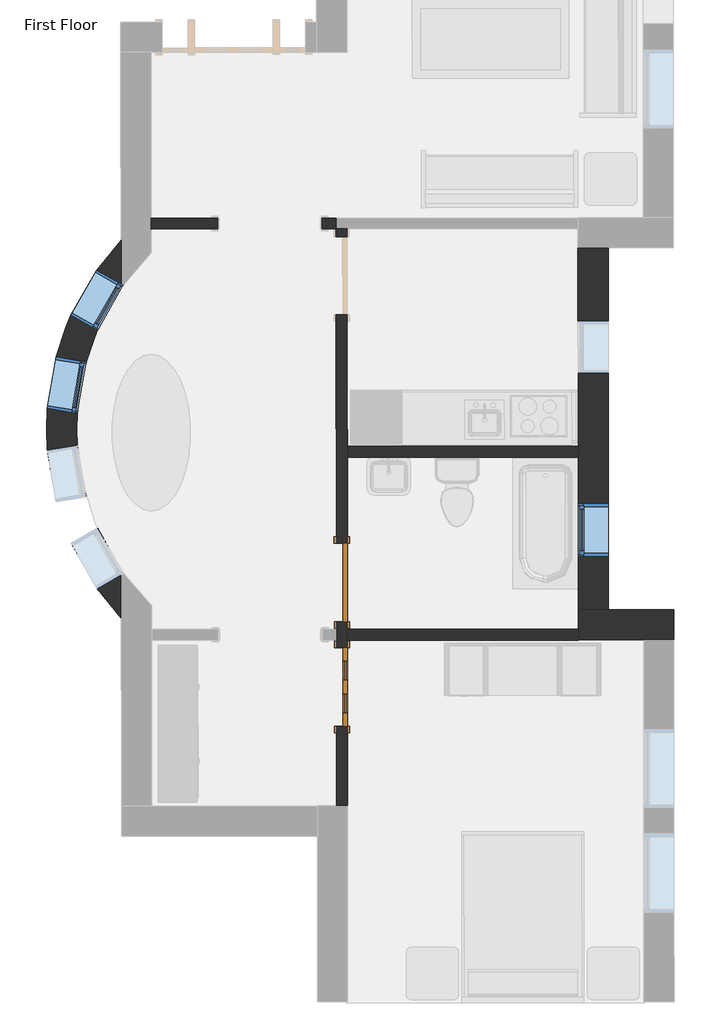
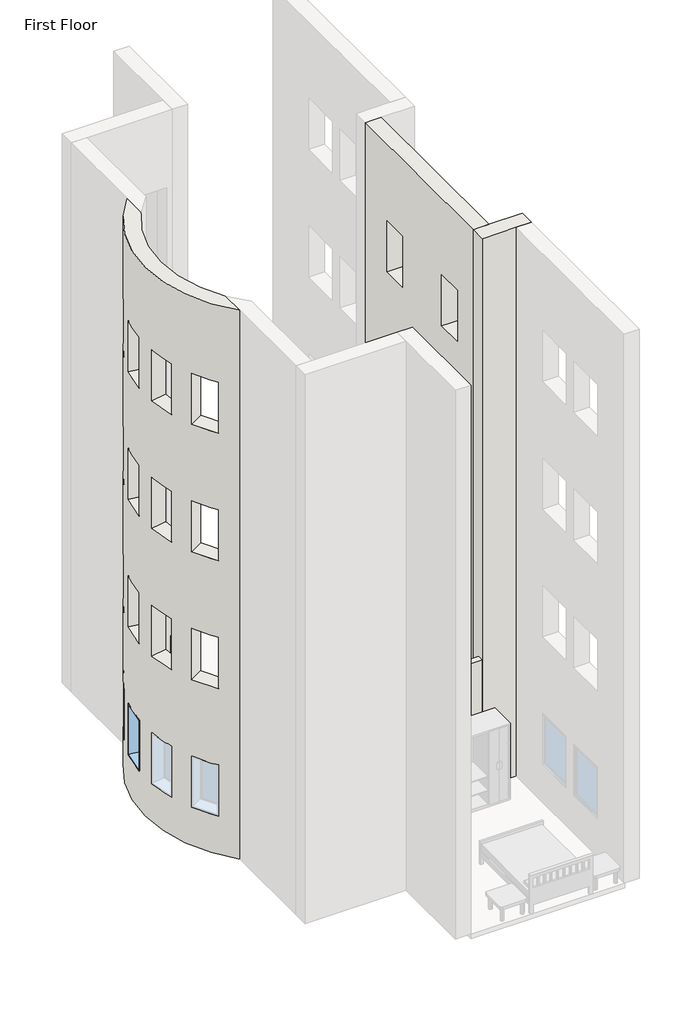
# One storey, part 11 of 21: 7 walls, 3 windows, 2 doors.
"""IFC4 building model written with IfcOpenShell, lengths in millimetres."""

from ifc_helpers import new_model, si_unit, frame, origin, origin_with_axes, place, context, project, spatial, polyline, circle_curve, outline, extrude, faceted_brep, transform, mapped, element, save
from ifc_brep_helpers import plane_surface, cylinder_surface, revolved_surface, advanced_brep
from components import door_829da954, door_a1797ceb, window_60baf983, window_ed80354a

model = new_model("IFC4")

# Units and contexts
model_context = context("Model", 3, world=origin())
ifc_project = project(units=[si_unit("LENGTHUNIT", "METRE", prefix="MILLI")], contexts=[model_context])

# Site, building, storey
site = spatial("IfcSite", under=ifc_project)
building = spatial("IfcBuilding", under=site)
storey = spatial("IfcBuildingStorey", under=building, Name="First Floor", Elevation=0.0)

# Doors
placement = place(None, origin())
door_shape = door_829da954(model_context)
element("IfcDoor", 1, ObjectType="Single-Decorative 2 : 36\" x 84\"", at=placement, inside=storey, context=model_context, shape_type="MappedRepresentation", body=[
    mapped(door_shape, transform((-3767.5734658, -7802.9176579, 0.0), x_axis=(-0.0007588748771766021, 0.999999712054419, 0.0), y_axis=(-0.999999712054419, -0.0007588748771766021, 0.0), z_axis=(0.0, 0.0, 1.0))),
])
door_2_shape = door_a1797ceb(model_context)
element("IfcDoor", 2, ObjectType="Single-Flush : 36\" x 84\"", at=placement, inside=storey, context=model_context, shape_type="MappedRepresentation", body=[
    mapped(door_2_shape, transform((-3768.498686, -6583.718009, 0.0), x_axis=(0.0007588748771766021, -0.999999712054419, 0.0), y_axis=(0.999999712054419, 0.0007588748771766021, 0.0), z_axis=(0.0, 0.0, 1.0))),
])

# Walls
element("IfcWall", 3, ObjectType="Exterior - Brick on Mtl. Stud", at=placement, inside=storey, context=model_context, shape_type="Brep", body=[
    faceted_brep([(105.2435508, -6901.4534148, 0.0), (-656.7562298, -6902.0316775, 0.0), (-1009.1811283, -6902.2991239, 0.0), (-1009.1811283, -6902.2991239, 13106.4), (-656.7562298, -6902.0316775, 13106.4), (105.2435508, -6901.4534148, 13106.4), (105.5109973, -7253.8783133, 0.0), (105.5109973, -7253.8783133, 13106.4), (-246.9139012, -7254.1457598, 13106.4), (-1008.9136818, -7254.7240225, 13106.4), (-1008.9136818, -7254.7240225, 0.0), (-246.9139012, -7254.1457598, 0.0)], [[[0, 1, 2, 3, 4, 5]], [[6, 7, 8, 9, 10, 11]], [[2, 1, 0, 6, 11, 10]], [[5, 4, 3, 9, 8, 7]], [[0, 5, 7, 6]], [[3, 2, 10, 9]]]),
])
element("IfcWall", 4, ObjectType="Exterior - Brick on Mtl. Stud", at=placement, inside=storey, context=model_context, shape_type="Brep", body=[
    faceted_brep([(-659.9583592, -2682.4578925, 0.0), (-656.7562298, -6902.0316775, 0.0), (-1009.1811283, -6902.2991239, 0.0), (-1010.5328173, -5121.1246368, 0.0), (-1010.6291944, -4994.1246734, 0.0), (-1012.3832578, -2682.725339, 0.0), (-656.7562298, -6902.0316775, 13106.4), (-659.9583592, -2682.4578925, 13106.4), (-1012.3832578, -2682.725339, 13106.4), (-1009.1811283, -6902.2991239, 13106.4), (-657.230887, -6276.5568576, 8229.6), (-657.6934972, -5666.9570331, 8229.6), (-657.6934972, -5666.9570331, 7010.4), (-657.230887, -6276.5568576, 7010.4), (-658.8500225, -4142.9574719, 8229.6), (-659.3126326, -3533.3576475, 8229.6), (-659.3126326, -3533.3576475, 7010.4), (-658.8500225, -4142.9574719, 7010.4), (-657.230887, -6276.5568576, 5181.6), (-657.6934972, -5666.9570331, 5181.6), (-657.6934972, -5666.9570331, 3962.4), (-657.230887, -6276.5568576, 3962.4), (-658.8500225, -4142.9574719, 5181.6), (-659.3126326, -3533.3576475, 5181.6), (-659.3126326, -3533.3576475, 3962.4), (-658.8500225, -4142.9574719, 3962.4), (-657.230887, -6276.5568576, 11277.6), (-657.6934972, -5666.9570331, 11277.6), (-657.6934972, -5666.9570331, 10058.4), (-657.230887, -6276.5568576, 10058.4), (-658.8500225, -4142.9574719, 11277.6), (-659.3126326, -3533.3576475, 11277.6), (-659.3126326, -3533.3576475, 10058.4), (-658.8500225, -4142.9574719, 10058.4), (-657.230887, -6276.5568576, 2133.6), (-657.6934972, -5666.9570331, 2133.6), (-657.6934972, -5666.9570331, 914.4), (-657.230887, -6276.5568576, 914.4), (-658.8500225, -4142.9574719, 2133.6), (-659.3126326, -3533.3576475, 2133.6), (-659.3126326, -3533.3576475, 914.4), (-658.8500225, -4142.9574719, 914.4), (-1009.6557856, -6276.824304, 8229.6), (-1009.6557856, -6276.824304, 7010.4), (-1010.1183957, -5667.2244796, 7010.4), (-1010.1183957, -5667.2244796, 8229.6), (-1011.274921, -4143.2249184, 8229.6), (-1011.274921, -4143.2249184, 7010.4), (-1011.7375311, -3533.6250939, 7010.4), (-1011.7375311, -3533.6250939, 8229.6), (-1009.6557856, -6276.824304, 5181.6), (-1009.6557856, -6276.824304, 3962.4), (-1010.1183957, -5667.2244796, 3962.4), (-1010.1183957, -5667.2244796, 5181.6), (-1011.274921, -4143.2249184, 5181.6), (-1011.274921, -4143.2249184, 3962.4), (-1011.7375311, -3533.6250939, 3962.4), (-1011.7375311, -3533.6250939, 5181.6), (-1009.6557856, -6276.824304, 11277.6), (-1009.6557856, -6276.824304, 10058.4), (-1010.1183957, -5667.2244796, 10058.4), (-1010.1183957, -5667.2244796, 11277.6), (-1011.274921, -4143.2249184, 11277.6), (-1011.274921, -4143.2249184, 10058.4), (-1011.7375311, -3533.6250939, 10058.4), (-1011.7375311, -3533.6250939, 11277.6), (-1009.6557856, -6276.824304, 2133.6), (-1009.6557856, -6276.824304, 914.4), (-1010.1183957, -5667.2244796, 914.4), (-1010.1183957, -5667.2244796, 2133.6), (-1011.274921, -4143.2249184, 2133.6), (-1011.274921, -4143.2249184, 914.4), (-1011.7375311, -3533.6250939, 914.4), (-1011.7375311, -3533.6250939, 2133.6)], [[[0, 1, 2, 3, 4, 5]], [[6, 7, 8, 9]], [[1, 0, 7, 6], [10, 11, 12, 13], [14, 15, 16, 17], [18, 19, 20, 21], [22, 23, 24, 25], [26, 27, 28, 29], [30, 31, 32, 33], [34, 35, 36, 37], [38, 39, 40, 41]], [[2, 9, 8, 5, 4, 3], [42, 43, 44, 45], [46, 47, 48, 49], [50, 51, 52, 53], [54, 55, 56, 57], [58, 59, 60, 61], [62, 63, 64, 65], [66, 67, 68, 69], [70, 71, 72, 73]], [[1, 6, 9, 2]], [[0, 5, 8, 7]], [[43, 42, 10, 13]], [[44, 43, 13, 12]], [[45, 44, 12, 11]], [[42, 45, 11, 10]], [[47, 46, 14, 17]], [[48, 47, 17, 16]], [[49, 48, 16, 15]], [[46, 49, 15, 14]], [[51, 50, 18, 21]], [[52, 51, 21, 20]], [[53, 52, 20, 19]], [[50, 53, 19, 18]], [[55, 54, 22, 25]], [[56, 55, 25, 24]], [[57, 56, 24, 23]], [[54, 57, 23, 22]], [[59, 58, 26, 29]], [[60, 59, 29, 28]], [[61, 60, 28, 27]], [[58, 61, 27, 26]], [[63, 62, 30, 33]], [[64, 63, 33, 32]], [[65, 64, 32, 31]], [[62, 65, 31, 30]], [[67, 66, 34, 37]], [[68, 67, 37, 36]], [[69, 68, 36, 35]], [[66, 69, 35, 34]], [[71, 70, 38, 41]], [[72, 71, 41, 40]], [[73, 72, 40, 39]], [[70, 73, 39, 38]]]),
])
element("IfcWall", 5, ObjectType="Exterior - Brick on Mtl. Stud", at=placement, inside=storey, context=model_context, shape_type="AdvancedBrep", body=[
    advanced_brep(
    [(-6346.4535097, -2592.1754708, 13106.4), (-6343.1078046, -7000.9446693, 13106.4), (-6343.5311767, -6443.0502457, 13106.4), (-6346.0301375, -3150.0698944, 13106.4), (-6343.1078046, -7000.9446693, 0.0), (-6346.4535097, -2592.1754708, 0.0), (-6346.0301375, -3150.0698944, 0.0), (-6343.5311767, -6443.0502457, 0.0), (-6928.8596513, -6125.0330477, 914.4), (-6928.8596513, -6125.0330477, 2133.6), (-6625.9800099, -6654.0662062, 2133.6), (-6625.9800099, -6654.0662062, 914.4), (-6930.8752676, -3468.975108, 2133.6), (-6930.8752676, -3468.975108, 914.4), (-6628.7989147, -2939.4828634, 914.4), (-6628.7989147, -2939.4828634, 2133.6), (-6928.8596513, -6125.0330477, 10058.4), (-6928.8596513, -6125.0330477, 11277.6), (-6625.9800099, -6654.0662062, 11277.6), (-6625.9800099, -6654.0662062, 10058.4), (-6930.8752676, -3468.975108, 11277.6), (-6930.8752676, -3468.975108, 10058.4), (-6628.7989147, -2939.4828634, 10058.4), (-6628.7989147, -2939.4828634, 11277.6), (-6928.8596513, -6125.0330477, 3962.4), (-6928.8596513, -6125.0330477, 5181.6), (-6625.9800099, -6654.0662062, 5181.6), (-6625.9800099, -6654.0662062, 3962.4), (-6930.8752676, -3468.975108, 5181.6), (-6930.8752676, -3468.975108, 3962.4), (-6628.7989147, -2939.4828634, 3962.4), (-6628.7989147, -2939.4828634, 5181.6), (-6928.8596513, -6125.0330477, 7010.4), (-6928.8596513, -6125.0330477, 8229.6), (-6625.9800099, -6654.0662062, 8229.6), (-6625.9800099, -6654.0662062, 7010.4), (-6930.8752676, -3468.975108, 8229.6), (-6930.8752676, -3468.975108, 7010.4), (-6628.7989147, -2939.4828634, 7010.4), (-6628.7989147, -2939.4828634, 8229.6), (-7206.9803495, -4552.7895718, 8229.6), (-7206.9803495, -4552.7895718, 7010.4), (-7103.9674711, -3951.9563945, 7010.4), (-7103.9674711, -3951.9563945, 8229.6), (-7206.609374, -5041.6388905, 8229.6), (-7102.6847001, -5642.315028, 8229.6), (-7102.6847001, -5642.315028, 7010.4), (-7206.609374, -5041.6388905, 7010.4), (-7206.9803495, -4552.7895718, 5181.6), (-7206.9803495, -4552.7895718, 3962.4), (-7103.9674711, -3951.9563945, 3962.4), (-7103.9674711, -3951.9563945, 5181.6), (-7206.609374, -5041.6388905, 5181.6), (-7102.6847001, -5642.315028, 5181.6), (-7102.6847001, -5642.315028, 3962.4), (-7206.609374, -5041.6388905, 3962.4), (-7206.9803495, -4552.7895718, 11277.6), (-7206.9803495, -4552.7895718, 10058.4), (-7103.9674711, -3951.9563945, 10058.4), (-7103.9674711, -3951.9563945, 11277.6), (-7206.609374, -5041.6388905, 11277.6), (-7102.6847001, -5642.315028, 11277.6), (-7102.6847001, -5642.315028, 10058.4), (-7206.609374, -5041.6388905, 10058.4), (-7206.9803495, -4552.7895718, 2133.6), (-7206.9803495, -4552.7895718, 914.4), (-7103.9674711, -3951.9563945, 914.4), (-7103.9674711, -3951.9563945, 2133.6), (-7206.609374, -5041.6388905, 2133.6), (-7102.6847001, -5642.315028, 2133.6), (-7102.6847001, -5642.315028, 914.4), (-7206.609374, -5041.6388905, 914.4), (-6343.5311767, -6443.0502457, 11277.6), (-6621.4662951, -5949.045611, 11277.6), (-6621.4662951, -5949.045611, 10058.4), (-6343.5311767, -6443.0502457, 10058.4), (-6343.5311767, -6443.0502457, 8229.6), (-6621.4662951, -5949.045611, 8229.6), (-6621.4662951, -5949.045611, 7010.4), (-6343.5311767, -6443.0502457, 7010.4), (-6343.5311767, -6443.0502457, 5181.6), (-6621.4662951, -5949.045611, 5181.6), (-6621.4662951, -5949.045611, 3962.4), (-6343.5311767, -6443.0502457, 3962.4), (-6343.5311767, -6443.0502457, 2133.6), (-6621.4662951, -5949.045611, 2133.6), (-6621.4662951, -5949.045611, 914.4), (-6343.5311767, -6443.0502457, 914.4), (-6346.0301375, -3150.0698944, 914.4), (-6623.2151606, -3644.4957959, 914.4), (-6623.2151606, -3644.4957959, 2133.6), (-6346.0301375, -3150.0698944, 2133.6), (-6346.0301375, -3150.0698944, 3962.4), (-6623.2151606, -3644.4957959, 3962.4), (-6623.2151606, -3644.4957959, 5181.6), (-6346.0301375, -3150.0698944, 5181.6), (-6346.0301375, -3150.0698944, 7010.4), (-6623.2151606, -3644.4957959, 7010.4), (-6623.2151606, -3644.4957959, 8229.6), (-6346.0301375, -3150.0698944, 8229.6), (-6346.0301375, -3150.0698944, 10058.4), (-6623.2151606, -3644.4957959, 10058.4), (-6623.2151606, -3644.4957959, 11277.6), (-6346.0301375, -3150.0698944, 11277.6), (-6857.8677771, -4612.6449398, 8229.6), (-6754.8548987, -4011.8117626, 8229.6), (-6754.8548987, -4011.8117626, 7010.4), (-6857.8677771, -4612.6449398, 7010.4), (-6857.5880491, -4981.253726, 8229.6), (-6857.5880491, -4981.253726, 7010.4), (-6753.6633752, -5581.9298635, 7010.4), (-6753.6633752, -5581.9298635, 8229.6), (-6857.8677771, -4612.6449398, 5181.6), (-6754.8548987, -4011.8117626, 5181.6), (-6754.8548987, -4011.8117626, 3962.4), (-6857.8677771, -4612.6449398, 3962.4), (-6857.5880491, -4981.253726, 5181.6), (-6857.5880491, -4981.253726, 3962.4), (-6753.6633752, -5581.9298635, 3962.4), (-6753.6633752, -5581.9298635, 5181.6), (-6857.8677771, -4612.6449398, 11277.6), (-6754.8548987, -4011.8117626, 11277.6), (-6754.8548987, -4011.8117626, 10058.4), (-6857.8677771, -4612.6449398, 10058.4), (-6857.5880491, -4981.253726, 11277.6), (-6857.5880491, -4981.253726, 10058.4), (-6753.6633752, -5581.9298635, 10058.4), (-6753.6633752, -5581.9298635, 11277.6), (-6857.8677771, -4612.6449398, 2133.6), (-6754.8548987, -4011.8117626, 2133.6), (-6754.8548987, -4011.8117626, 914.4), (-6857.8677771, -4612.6449398, 914.4), (-6857.5880491, -4981.253726, 2133.6), (-6857.5880491, -4981.253726, 914.4), (-6753.6633752, -5581.9298635, 914.4), (-6753.6633752, -5581.9298635, 2133.6), (-6346.0675411, -3100.7816606, 11277.6), (-6346.0675411, -3100.7816606, 10058.4), (-6346.0675411, -3100.7816606, 8229.6), (-6346.0675411, -3100.7816606, 7010.4), (-6346.0675411, -3100.7816606, 5181.6), (-6346.0675411, -3100.7816606, 3962.4), (-6346.0675411, -3100.7816606, 2133.6), (-6346.0675411, -3100.7816606, 914.4), (-6343.4937731, -6492.3384795, 914.4), (-6343.4937731, -6492.3384795, 2133.6), (-6343.4937731, -6492.3384795, 3962.4), (-6343.4937731, -6492.3384795, 5181.6), (-6343.4937731, -6492.3384795, 7010.4), (-6343.4937731, -6492.3384795, 8229.6), (-6343.4937731, -6492.3384795, 10058.4), (-6343.4937731, -6492.3384795, 11277.6)],
    [
        (0, 1, circle_curve(frame((-3991.8614496, -4794.7744983, 13106.4), z_axis=(0.0, 0.0, 1.0), x_axis=(-0.0007588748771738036, 0.999999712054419, 0.0)), 3224.2125)),
        (1, 2),
        (2, 3, circle_curve(frame((-3991.8614496, -4794.7744983, 13106.4), z_axis=(0.0, 0.0, -1.0), x_axis=(-0.0007588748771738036, 0.999999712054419, 0.0)), 2871.7875)),
        (3, 0),
        (4, 5, circle_curve(frame((-3991.8614496, -4794.7744983, 0.0), z_axis=(0.0, 0.0, -1.0), x_axis=(-0.0007588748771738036, 0.999999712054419, 0.0)), 3224.2125)),
        (5, 6),
        (6, 7, circle_curve(frame((-3991.8614496, -4794.7744983, 0.0), z_axis=(0.0, 0.0, 1.0), x_axis=(-0.0007588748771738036, 0.999999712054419, 0.0)), 2871.7875)),
        (7, 4),
        (0, 5),
        (4, 1),
        (8, 9),
        (9, 10, circle_curve(frame((-3991.8614496, -4794.7744983, 2133.6), z_axis=(0.0, 0.0, 1.0), x_axis=(-0.0007588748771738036, 0.999999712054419, 0.0)), 3224.2125)),
        (10, 11),
        (11, 8, circle_curve(frame((-3991.8614496, -4794.7744983, 914.4), z_axis=(0.0, 0.0, -1.0), x_axis=(-0.0007588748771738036, 0.999999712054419, 0.0)), 3224.2125)),
        (12, 13),
        (13, 14, circle_curve(frame((-3991.8614496, -4794.7744983, 914.4), z_axis=(0.0, 0.0, -1.0), x_axis=(-0.0007588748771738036, 0.999999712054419, 0.0)), 3224.2125)),
        (14, 15),
        (15, 12, circle_curve(frame((-3991.8614496, -4794.7744983, 2133.6), z_axis=(0.0, 0.0, 1.0), x_axis=(-0.0007588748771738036, 0.999999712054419, 0.0)), 3224.2125)),
        (16, 17),
        (17, 18, circle_curve(frame((-3991.8614496, -4794.7744983, 11277.6), z_axis=(0.0, 0.0, 1.0), x_axis=(-0.0007588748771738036, 0.999999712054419, 0.0)), 3224.2125)),
        (18, 19),
        (19, 16, circle_curve(frame((-3991.8614496, -4794.7744983, 10058.4), z_axis=(0.0, 0.0, -1.0), x_axis=(-0.0007588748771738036, 0.999999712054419, 0.0)), 3224.2125)),
        (20, 21),
        (21, 22, circle_curve(frame((-3991.8614496, -4794.7744983, 10058.4), z_axis=(0.0, 0.0, -1.0), x_axis=(-0.0007588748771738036, 0.999999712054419, 0.0)), 3224.2125)),
        (22, 23),
        (23, 20, circle_curve(frame((-3991.8614496, -4794.7744983, 11277.6), z_axis=(0.0, 0.0, 1.0), x_axis=(-0.0007588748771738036, 0.999999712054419, 0.0)), 3224.2125)),
        (24, 25),
        (25, 26, circle_curve(frame((-3991.8614496, -4794.7744983, 5181.6), z_axis=(0.0, 0.0, 1.0), x_axis=(-0.0007588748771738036, 0.999999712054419, 0.0)), 3224.2125)),
        (26, 27),
        (27, 24, circle_curve(frame((-3991.8614496, -4794.7744983, 3962.4), z_axis=(0.0, 0.0, -1.0), x_axis=(-0.0007588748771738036, 0.999999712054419, 0.0)), 3224.2125)),
        (28, 29),
        (29, 30, circle_curve(frame((-3991.8614496, -4794.7744983, 3962.4), z_axis=(0.0, 0.0, -1.0), x_axis=(-0.0007588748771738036, 0.999999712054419, 0.0)), 3224.2125)),
        (30, 31),
        (31, 28, circle_curve(frame((-3991.8614496, -4794.7744983, 5181.6), z_axis=(0.0, 0.0, 1.0), x_axis=(-0.0007588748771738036, 0.999999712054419, 0.0)), 3224.2125)),
        (32, 33),
        (33, 34, circle_curve(frame((-3991.8614496, -4794.7744983, 8229.6), z_axis=(0.0, 0.0, 1.0), x_axis=(-0.0007588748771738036, 0.999999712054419, 0.0)), 3224.2125)),
        (34, 35),
        (35, 32, circle_curve(frame((-3991.8614496, -4794.7744983, 7010.4), z_axis=(0.0, 0.0, -1.0), x_axis=(-0.0007588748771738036, 0.999999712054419, 0.0)), 3224.2125)),
        (36, 37),
        (37, 38, circle_curve(frame((-3991.8614496, -4794.7744983, 7010.4), z_axis=(0.0, 0.0, -1.0), x_axis=(-0.0007588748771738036, 0.999999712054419, 0.0)), 3224.2125)),
        (38, 39),
        (39, 36, circle_curve(frame((-3991.8614496, -4794.7744983, 8229.6), z_axis=(0.0, 0.0, 1.0), x_axis=(-0.0007588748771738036, 0.999999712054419, 0.0)), 3224.2125)),
        (40, 41),
        (41, 42, circle_curve(frame((-3991.8614496, -4794.7744983, 7010.4), z_axis=(0.0, 0.0, -1.0), x_axis=(-0.0007588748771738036, 0.999999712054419, 0.0)), 3224.2125)),
        (42, 43),
        (43, 40, circle_curve(frame((-3991.8614496, -4794.7744983, 8229.6), z_axis=(0.0, 0.0, 1.0), x_axis=(-0.0007588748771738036, 0.999999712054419, 0.0)), 3224.2125)),
        (44, 45, circle_curve(frame((-3991.8614496, -4794.7744983, 8229.6), z_axis=(0.0, 0.0, 1.0), x_axis=(-0.0007588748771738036, 0.999999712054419, 0.0)), 3224.2125)),
        (45, 46),
        (46, 47, circle_curve(frame((-3991.8614496, -4794.7744983, 7010.4), z_axis=(0.0, 0.0, -1.0), x_axis=(-0.0007588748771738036, 0.999999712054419, 0.0)), 3224.2125)),
        (47, 44),
        (48, 49),
        (49, 50, circle_curve(frame((-3991.8614496, -4794.7744983, 3962.4), z_axis=(0.0, 0.0, -1.0), x_axis=(-0.0007588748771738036, 0.999999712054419, 0.0)), 3224.2125)),
        (50, 51),
        (51, 48, circle_curve(frame((-3991.8614496, -4794.7744983, 5181.6), z_axis=(0.0, 0.0, 1.0), x_axis=(-0.0007588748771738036, 0.999999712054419, 0.0)), 3224.2125)),
        (52, 53, circle_curve(frame((-3991.8614496, -4794.7744983, 5181.6), z_axis=(0.0, 0.0, 1.0), x_axis=(-0.0007588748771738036, 0.999999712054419, 0.0)), 3224.2125)),
        (53, 54),
        (54, 55, circle_curve(frame((-3991.8614496, -4794.7744983, 3962.4), z_axis=(0.0, 0.0, -1.0), x_axis=(-0.0007588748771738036, 0.999999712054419, 0.0)), 3224.2125)),
        (55, 52),
        (56, 57),
        (57, 58, circle_curve(frame((-3991.8614496, -4794.7744983, 10058.4), z_axis=(0.0, 0.0, -1.0), x_axis=(-0.0007588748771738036, 0.999999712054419, 0.0)), 3224.2125)),
        (58, 59),
        (59, 56, circle_curve(frame((-3991.8614496, -4794.7744983, 11277.6), z_axis=(0.0, 0.0, 1.0), x_axis=(-0.0007588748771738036, 0.999999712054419, 0.0)), 3224.2125)),
        (60, 61, circle_curve(frame((-3991.8614496, -4794.7744983, 11277.6), z_axis=(0.0, 0.0, 1.0), x_axis=(-0.0007588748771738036, 0.999999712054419, 0.0)), 3224.2125)),
        (61, 62),
        (62, 63, circle_curve(frame((-3991.8614496, -4794.7744983, 10058.4), z_axis=(0.0, 0.0, -1.0), x_axis=(-0.0007588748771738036, 0.999999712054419, 0.0)), 3224.2125)),
        (63, 60),
        (64, 65),
        (65, 66, circle_curve(frame((-3991.8614496, -4794.7744983, 914.4), z_axis=(0.0, 0.0, -1.0), x_axis=(-0.0007588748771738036, 0.999999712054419, 0.0)), 3224.2125)),
        (66, 67),
        (67, 64, circle_curve(frame((-3991.8614496, -4794.7744983, 2133.6), z_axis=(0.0, 0.0, 1.0), x_axis=(-0.0007588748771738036, 0.999999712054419, 0.0)), 3224.2125)),
        (68, 69, circle_curve(frame((-3991.8614496, -4794.7744983, 2133.6), z_axis=(0.0, 0.0, 1.0), x_axis=(-0.0007588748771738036, 0.999999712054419, 0.0)), 3224.2125)),
        (69, 70),
        (70, 71, circle_curve(frame((-3991.8614496, -4794.7744983, 914.4), z_axis=(0.0, 0.0, -1.0), x_axis=(-0.0007588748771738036, 0.999999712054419, 0.0)), 3224.2125)),
        (71, 68),
        (2, 72),
        (72, 73, circle_curve(frame((-3991.8614496, -4794.7744983, 11277.6), z_axis=(0.0, 0.0, -1.0), x_axis=(-0.0007588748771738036, 0.999999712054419, 0.0)), 2871.7875)),
        (73, 74),
        (74, 75, circle_curve(frame((-3991.8614496, -4794.7744983, 10058.4), z_axis=(0.0, 0.0, 1.0), x_axis=(-0.0007588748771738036, 0.999999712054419, 0.0)), 2871.7875)),
        (75, 76),
        (76, 77, circle_curve(frame((-3991.8614496, -4794.7744983, 8229.6), z_axis=(0.0, 0.0, -1.0), x_axis=(-0.0007588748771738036, 0.999999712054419, 0.0)), 2871.7875)),
        (77, 78),
        (78, 79, circle_curve(frame((-3991.8614496, -4794.7744983, 7010.4), z_axis=(0.0, 0.0, 1.0), x_axis=(-0.0007588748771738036, 0.999999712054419, 0.0)), 2871.7875)),
        (79, 80),
        (80, 81, circle_curve(frame((-3991.8614496, -4794.7744983, 5181.6), z_axis=(0.0, 0.0, -1.0), x_axis=(-0.0007588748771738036, 0.999999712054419, 0.0)), 2871.7875)),
        (81, 82),
        (82, 83, circle_curve(frame((-3991.8614496, -4794.7744983, 3962.4), z_axis=(0.0, 0.0, 1.0), x_axis=(-0.0007588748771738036, 0.999999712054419, 0.0)), 2871.7875)),
        (83, 84),
        (84, 85, circle_curve(frame((-3991.8614496, -4794.7744983, 2133.6), z_axis=(0.0, 0.0, -1.0), x_axis=(-0.0007588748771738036, 0.999999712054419, 0.0)), 2871.7875)),
        (85, 86),
        (86, 87, circle_curve(frame((-3991.8614496, -4794.7744983, 914.4), z_axis=(0.0, 0.0, 1.0), x_axis=(-0.0007588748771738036, 0.999999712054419, 0.0)), 2871.7875)),
        (87, 7),
        (6, 88),
        (88, 89, circle_curve(frame((-3991.8614496, -4794.7744983, 914.4), z_axis=(0.0, 0.0, 1.0), x_axis=(-0.0007588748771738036, 0.999999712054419, 0.0)), 2871.7875)),
        (89, 90),
        (90, 91, circle_curve(frame((-3991.8614496, -4794.7744983, 2133.6), z_axis=(0.0, 0.0, -1.0), x_axis=(-0.0007588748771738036, 0.999999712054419, 0.0)), 2871.7875)),
        (91, 92),
        (92, 93, circle_curve(frame((-3991.8614496, -4794.7744983, 3962.4), z_axis=(0.0, 0.0, 1.0), x_axis=(-0.0007588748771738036, 0.999999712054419, 0.0)), 2871.7875)),
        (93, 94),
        (94, 95, circle_curve(frame((-3991.8614496, -4794.7744983, 5181.6), z_axis=(0.0, 0.0, -1.0), x_axis=(-0.0007588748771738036, 0.999999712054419, 0.0)), 2871.7875)),
        (95, 96),
        (96, 97, circle_curve(frame((-3991.8614496, -4794.7744983, 7010.4), z_axis=(0.0, 0.0, 1.0), x_axis=(-0.0007588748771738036, 0.999999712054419, 0.0)), 2871.7875)),
        (97, 98),
        (98, 99, circle_curve(frame((-3991.8614496, -4794.7744983, 8229.6), z_axis=(0.0, 0.0, -1.0), x_axis=(-0.0007588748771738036, 0.999999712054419, 0.0)), 2871.7875)),
        (99, 100),
        (100, 101, circle_curve(frame((-3991.8614496, -4794.7744983, 10058.4), z_axis=(0.0, 0.0, 1.0), x_axis=(-0.0007588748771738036, 0.999999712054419, 0.0)), 2871.7875)),
        (101, 102),
        (102, 103, circle_curve(frame((-3991.8614496, -4794.7744983, 11277.6), z_axis=(0.0, 0.0, -1.0), x_axis=(-0.0007588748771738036, 0.999999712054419, 0.0)), 2871.7875)),
        (103, 3),
        (104, 105, circle_curve(frame((-3991.8614496, -4794.7744983, 8229.6), z_axis=(0.0, 0.0, -1.0), x_axis=(-0.0007588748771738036, 0.999999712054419, 0.0)), 2871.7875)),
        (105, 106),
        (106, 107, circle_curve(frame((-3991.8614496, -4794.7744983, 7010.4), z_axis=(0.0, 0.0, 1.0), x_axis=(-0.0007588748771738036, 0.999999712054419, 0.0)), 2871.7875)),
        (107, 104),
        (108, 109),
        (109, 110, circle_curve(frame((-3991.8614496, -4794.7744983, 7010.4), z_axis=(0.0, 0.0, 1.0), x_axis=(-0.0007588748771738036, 0.999999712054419, 0.0)), 2871.7875)),
        (110, 111),
        (111, 108, circle_curve(frame((-3991.8614496, -4794.7744983, 8229.6), z_axis=(0.0, 0.0, -1.0), x_axis=(-0.0007588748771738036, 0.999999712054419, 0.0)), 2871.7875)),
        (112, 113, circle_curve(frame((-3991.8614496, -4794.7744983, 5181.6), z_axis=(0.0, 0.0, -1.0), x_axis=(-0.0007588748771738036, 0.999999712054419, 0.0)), 2871.7875)),
        (113, 114),
        (114, 115, circle_curve(frame((-3991.8614496, -4794.7744983, 3962.4), z_axis=(0.0, 0.0, 1.0), x_axis=(-0.0007588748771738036, 0.999999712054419, 0.0)), 2871.7875)),
        (115, 112),
        (116, 117),
        (117, 118, circle_curve(frame((-3991.8614496, -4794.7744983, 3962.4), z_axis=(0.0, 0.0, 1.0), x_axis=(-0.0007588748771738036, 0.999999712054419, 0.0)), 2871.7875)),
        (118, 119),
        (119, 116, circle_curve(frame((-3991.8614496, -4794.7744983, 5181.6), z_axis=(0.0, 0.0, -1.0), x_axis=(-0.0007588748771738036, 0.999999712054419, 0.0)), 2871.7875)),
        (120, 121, circle_curve(frame((-3991.8614496, -4794.7744983, 11277.6), z_axis=(0.0, 0.0, -1.0), x_axis=(-0.0007588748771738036, 0.999999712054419, 0.0)), 2871.7875)),
        (121, 122),
        (122, 123, circle_curve(frame((-3991.8614496, -4794.7744983, 10058.4), z_axis=(0.0, 0.0, 1.0), x_axis=(-0.0007588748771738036, 0.999999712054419, 0.0)), 2871.7875)),
        (123, 120),
        (124, 125),
        (125, 126, circle_curve(frame((-3991.8614496, -4794.7744983, 10058.4), z_axis=(0.0, 0.0, 1.0), x_axis=(-0.0007588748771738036, 0.999999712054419, 0.0)), 2871.7875)),
        (126, 127),
        (127, 124, circle_curve(frame((-3991.8614496, -4794.7744983, 11277.6), z_axis=(0.0, 0.0, -1.0), x_axis=(-0.0007588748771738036, 0.999999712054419, 0.0)), 2871.7875)),
        (128, 129, circle_curve(frame((-3991.8614496, -4794.7744983, 2133.6), z_axis=(0.0, 0.0, -1.0), x_axis=(-0.0007588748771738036, 0.999999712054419, 0.0)), 2871.7875)),
        (129, 130),
        (130, 131, circle_curve(frame((-3991.8614496, -4794.7744983, 914.4), z_axis=(0.0, 0.0, 1.0), x_axis=(-0.0007588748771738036, 0.999999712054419, 0.0)), 2871.7875)),
        (131, 128),
        (132, 133),
        (133, 134, circle_curve(frame((-3991.8614496, -4794.7744983, 914.4), z_axis=(0.0, 0.0, 1.0), x_axis=(-0.0007588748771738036, 0.999999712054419, 0.0)), 2871.7875)),
        (134, 135),
        (135, 132, circle_curve(frame((-3991.8614496, -4794.7744983, 2133.6), z_axis=(0.0, 0.0, -1.0), x_axis=(-0.0007588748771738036, 0.999999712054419, 0.0)), 2871.7875)),
        (103, 136),
        (136, 137),
        (137, 100),
        (99, 138),
        (138, 139),
        (139, 96),
        (95, 140),
        (140, 141),
        (141, 92),
        (91, 142),
        (142, 143),
        (143, 88),
        (87, 144),
        (144, 145),
        (145, 84),
        (83, 146),
        (146, 147),
        (147, 80),
        (79, 148),
        (148, 149),
        (149, 76),
        (75, 150),
        (150, 151),
        (151, 72),
        (85, 9),
        (8, 86),
        (11, 144),
        (10, 145),
        (12, 90),
        (89, 13),
        (143, 14),
        (142, 15),
        (73, 17),
        (16, 74),
        (19, 150),
        (18, 151),
        (20, 102),
        (101, 21),
        (137, 22),
        (136, 23),
        (81, 25),
        (24, 82),
        (27, 146),
        (26, 147),
        (28, 94),
        (93, 29),
        (141, 30),
        (140, 31),
        (77, 33),
        (32, 78),
        (35, 148),
        (34, 149),
        (36, 98),
        (97, 37),
        (139, 38),
        (138, 39),
        (40, 104),
        (107, 41),
        (106, 42),
        (105, 43),
        (108, 44),
        (47, 109),
        (46, 110),
        (45, 111),
        (48, 112),
        (115, 49),
        (114, 50),
        (113, 51),
        (116, 52),
        (55, 117),
        (54, 118),
        (53, 119),
        (56, 120),
        (123, 57),
        (122, 58),
        (121, 59),
        (124, 60),
        (63, 125),
        (62, 126),
        (61, 127),
        (64, 128),
        (131, 65),
        (130, 66),
        (129, 67),
        (132, 68),
        (71, 133),
        (70, 134),
        (69, 135),
    ],
    [
        plane_surface(frame((-3994.3082235, -1570.5629267, 13106.4), z_axis=(0.0, 0.0, 1.0), x_axis=(-0.999999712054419, -0.0007588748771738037, 0.0))),
        plane_surface(frame((-3994.3082235, -1570.5629267, 0.0), z_axis=(0.0, 0.0, -1.0), x_axis=(0.999999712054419, 0.0007588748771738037, 0.0))),
        cylinder_surface(frame((-3991.8614496, -4794.7744983, 0.0), z_axis=(0.0, 0.0, 0.9999999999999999), x_axis=(-0.0007588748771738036, 0.999999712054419, 0.0)), 3224.2125),
        revolved_surface(polyline([(-3994.040776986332, -1922.9878252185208, 0.0), (-3994.040776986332, -1922.9878252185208, 13106.399999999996)]), (-3991.8614496, -4794.7744983, 0.0), (0.0, 0.0, -0.9999999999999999)),
        plane_surface(frame((-6348.2502331, -224.5613865, 0.0), z_axis=(0.999999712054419, 0.0007588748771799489, 0.0), x_axis=(0.0007588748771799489, -0.999999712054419, 0.0))),
        plane_surface(frame((-6341.3110812, -9368.5587536, 0.0), z_axis=(0.999999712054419, 0.0007588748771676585, 0.0), x_axis=(0.0007588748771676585, -0.999999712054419, 0.0))),
        plane_surface(frame((-8251.4425477, -6882.2321511, 2133.6), z_axis=(0.4968498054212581, -0.8678365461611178, 0.0), x_axis=(0.8678365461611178, 0.4968498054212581, 0.0))),
        plane_surface(frame((-8251.4425477, -6882.2321511, 914.4), z_axis=(0.0, 0.0, 1.0000000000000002), x_axis=(0.867836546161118, 0.49684980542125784, 0.0))),
        plane_surface(frame((-7948.5629063, -7411.2653097, 914.4), z_axis=(-0.4968498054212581, 0.8678365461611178, 0.0), x_axis=(0.8678365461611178, 0.4968498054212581, 0.0))),
        plane_surface(frame((-7948.5629063, -7411.2653097, 2133.6), z_axis=(0.0, 0.0, -1.0), x_axis=(0.8678365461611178, 0.4968498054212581, 0.0))),
        plane_surface(frame((-5607.1446561, -4224.1659901, 2133.6), z_axis=(0.49553207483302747, 0.8685896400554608, 0.0), x_axis=(-0.8685896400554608, 0.49553207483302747, 0.0))),
        plane_surface(frame((-5607.1446561, -4224.1659901, 914.4), z_axis=(0.0, 0.0, 1.0), x_axis=(-0.8685896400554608, 0.49553207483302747, 0.0))),
        plane_surface(frame((-5305.0683033, -3694.6737455, 914.4), z_axis=(-0.49553207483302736, -0.8685896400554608, 0.0), x_axis=(-0.8685896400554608, 0.49553207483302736, 0.0))),
        plane_surface(frame((-5305.0683033, -3694.6737455, 2133.6), z_axis=(0.0, 0.0, -1.0), x_axis=(-0.8685896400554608, 0.49553207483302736, 0.0))),
        plane_surface(frame((-8251.4425477, -6882.2321511, 11277.6), z_axis=(0.4968498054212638, -0.8678365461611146, 0.0), x_axis=(0.8678365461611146, 0.4968498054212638, 0.0))),
        plane_surface(frame((-8251.4425477, -6882.2321511, 10058.4), z_axis=(0.0, 0.0, 1.0), x_axis=(0.8678365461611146, 0.4968498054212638, 0.0))),
        plane_surface(frame((-7948.5629063, -7411.2653097, 10058.4), z_axis=(-0.4968498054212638, 0.8678365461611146, 0.0), x_axis=(0.8678365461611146, 0.4968498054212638, 0.0))),
        plane_surface(frame((-7948.5629063, -7411.2653097, 11277.6), z_axis=(0.0, 0.0, -1.0), x_axis=(0.8678365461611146, 0.4968498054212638, 0.0))),
        plane_surface(frame((-5607.1446561, -4224.1659901, 11277.6), z_axis=(0.4955320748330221, 0.8685896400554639, 0.0), x_axis=(-0.8685896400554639, 0.4955320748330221, 0.0))),
        plane_surface(frame((-5607.1446561, -4224.1659901, 10058.4), z_axis=(0.0, 0.0, 1.0000000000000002), x_axis=(-0.8685896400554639, 0.4955320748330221, 0.0))),
        plane_surface(frame((-5305.0683033, -3694.6737455, 10058.4), z_axis=(-0.4955320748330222, -0.8685896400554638, 0.0), x_axis=(-0.8685896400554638, 0.4955320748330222, 0.0))),
        plane_surface(frame((-5305.0683033, -3694.6737455, 11277.6), z_axis=(0.0, 0.0, -1.0), x_axis=(-0.8685896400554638, 0.4955320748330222, 0.0))),
        plane_surface(frame((-8251.4425477, -6882.2321511, 5181.6), z_axis=(0.4968498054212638, -0.8678365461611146, 0.0), x_axis=(0.8678365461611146, 0.4968498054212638, 0.0))),
        plane_surface(frame((-8251.4425477, -6882.2321511, 3962.4), z_axis=(0.0, 0.0, 1.0), x_axis=(0.8678365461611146, 0.4968498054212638, 0.0))),
        plane_surface(frame((-7948.5629063, -7411.2653097, 3962.4), z_axis=(-0.4968498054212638, 0.8678365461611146, 0.0), x_axis=(0.8678365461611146, 0.4968498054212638, 0.0))),
        plane_surface(frame((-7948.5629063, -7411.2653097, 5181.6), z_axis=(0.0, 0.0, -1.0), x_axis=(0.8678365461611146, 0.4968498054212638, 0.0))),
        plane_surface(frame((-5607.1446561, -4224.1659901, 5181.6), z_axis=(0.4955320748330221, 0.8685896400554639, 0.0), x_axis=(-0.8685896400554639, 0.4955320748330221, 0.0))),
        plane_surface(frame((-5607.1446561, -4224.1659901, 3962.4), z_axis=(0.0, 0.0, 1.0000000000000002), x_axis=(-0.8685896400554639, 0.4955320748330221, 0.0))),
        plane_surface(frame((-5305.0683033, -3694.6737455, 3962.4), z_axis=(-0.4955320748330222, -0.8685896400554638, 0.0), x_axis=(-0.8685896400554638, 0.4955320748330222, 0.0))),
        plane_surface(frame((-5305.0683033, -3694.6737455, 5181.6), z_axis=(0.0, 0.0, -1.0), x_axis=(-0.8685896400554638, 0.4955320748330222, 0.0))),
        plane_surface(frame((-8251.4425477, -6882.2321511, 8229.6), z_axis=(0.4968498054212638, -0.8678365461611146, 0.0), x_axis=(0.8678365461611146, 0.4968498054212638, 0.0))),
        plane_surface(frame((-8251.4425477, -6882.2321511, 7010.4), z_axis=(0.0, 0.0, 1.0), x_axis=(0.8678365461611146, 0.4968498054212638, 0.0))),
        plane_surface(frame((-7948.5629063, -7411.2653097, 7010.4), z_axis=(-0.4968498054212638, 0.8678365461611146, 0.0), x_axis=(0.8678365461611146, 0.4968498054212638, 0.0))),
        plane_surface(frame((-7948.5629063, -7411.2653097, 8229.6), z_axis=(0.0, 0.0, -1.0), x_axis=(0.8678365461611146, 0.4968498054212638, 0.0))),
        plane_surface(frame((-5607.1446561, -4224.1659901, 8229.6), z_axis=(0.4955320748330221, 0.8685896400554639, 0.0), x_axis=(-0.8685896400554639, 0.4955320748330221, 0.0))),
        plane_surface(frame((-5607.1446561, -4224.1659901, 7010.4), z_axis=(0.0, 0.0, 1.0000000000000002), x_axis=(-0.8685896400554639, 0.4955320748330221, 0.0))),
        plane_surface(frame((-5305.0683033, -3694.6737455, 7010.4), z_axis=(-0.4955320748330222, -0.8685896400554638, 0.0), x_axis=(-0.8685896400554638, 0.4955320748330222, 0.0))),
        plane_surface(frame((-5305.0683033, -3694.6737455, 8229.6), z_axis=(0.0, 0.0, -1.0), x_axis=(-0.8685896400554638, 0.4955320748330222, 0.0))),
        plane_surface(frame((-7206.9803495, -4552.7895718, 8229.6), z_axis=(0.16898438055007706, 0.985618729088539, 0.0), x_axis=(0.985618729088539, -0.16898438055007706, 0.0))),
        plane_surface(frame((-7206.9803495, -4552.7895718, 7010.4), z_axis=(0.0, 0.0, 1.0), x_axis=(0.985618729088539, -0.16898438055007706, 0.0))),
        plane_surface(frame((-7103.9674711, -3951.9563945, 7010.4), z_axis=(-0.1689843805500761, -0.9856187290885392, 0.0), x_axis=(0.9856187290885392, -0.1689843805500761, 0.0))),
        plane_surface(frame((-7103.9674711, -3951.9563945, 8229.6), z_axis=(0.0, 0.0, -1.0000000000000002), x_axis=(0.9856187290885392, -0.1689843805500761, 0.0))),
        plane_surface(frame((-6857.5880491, -4981.253726, 8229.6), z_axis=(0.17048010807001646, -0.9853611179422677, 0.0), x_axis=(-0.9853611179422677, -0.17048010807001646, 0.0))),
        plane_surface(frame((-6857.5880491, -4981.253726, 7010.4), z_axis=(0.0, 0.0, 1.0), x_axis=(-0.9853611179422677, -0.17048010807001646, 0.0))),
        plane_surface(frame((-6753.6633752, -5581.9298635, 7010.4), z_axis=(-0.1704801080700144, 0.985361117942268, 0.0), x_axis=(-0.985361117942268, -0.1704801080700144, 0.0))),
        plane_surface(frame((-6753.6633752, -5581.9298635, 8229.6), z_axis=(0.0, 0.0, -1.0), x_axis=(-0.985361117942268, -0.1704801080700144, 0.0))),
        plane_surface(frame((-7206.9803495, -4552.7895718, 5181.6), z_axis=(0.16898438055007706, 0.985618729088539, 0.0), x_axis=(0.985618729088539, -0.16898438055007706, 0.0))),
        plane_surface(frame((-7206.9803495, -4552.7895718, 3962.4), z_axis=(0.0, 0.0, 1.0), x_axis=(0.985618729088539, -0.16898438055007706, 0.0))),
        plane_surface(frame((-7103.9674711, -3951.9563945, 3962.4), z_axis=(-0.1689843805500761, -0.9856187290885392, 0.0), x_axis=(0.9856187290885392, -0.1689843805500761, 0.0))),
        plane_surface(frame((-7103.9674711, -3951.9563945, 5181.6), z_axis=(0.0, 0.0, -1.0000000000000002), x_axis=(0.9856187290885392, -0.1689843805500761, 0.0))),
        plane_surface(frame((-6857.5880491, -4981.253726, 5181.6), z_axis=(0.17048010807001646, -0.9853611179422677, 0.0), x_axis=(-0.9853611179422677, -0.17048010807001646, 0.0))),
        plane_surface(frame((-6857.5880491, -4981.253726, 3962.4), z_axis=(0.0, 0.0, 1.0), x_axis=(-0.9853611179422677, -0.17048010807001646, 0.0))),
        plane_surface(frame((-6753.6633752, -5581.9298635, 3962.4), z_axis=(-0.1704801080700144, 0.985361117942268, 0.0), x_axis=(-0.985361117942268, -0.1704801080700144, 0.0))),
        plane_surface(frame((-6753.6633752, -5581.9298635, 5181.6), z_axis=(0.0, 0.0, -1.0), x_axis=(-0.985361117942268, -0.1704801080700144, 0.0))),
        plane_surface(frame((-7206.9803495, -4552.7895718, 11277.6), z_axis=(0.16898438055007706, 0.985618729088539, 0.0), x_axis=(0.985618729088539, -0.16898438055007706, 0.0))),
        plane_surface(frame((-7206.9803495, -4552.7895718, 10058.4), z_axis=(0.0, 0.0, 1.0), x_axis=(0.985618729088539, -0.16898438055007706, 0.0))),
        plane_surface(frame((-7103.9674711, -3951.9563945, 10058.4), z_axis=(-0.1689843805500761, -0.9856187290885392, 0.0), x_axis=(0.9856187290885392, -0.1689843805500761, 0.0))),
        plane_surface(frame((-7103.9674711, -3951.9563945, 11277.6), z_axis=(0.0, 0.0, -1.0000000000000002), x_axis=(0.9856187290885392, -0.1689843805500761, 0.0))),
        plane_surface(frame((-6857.5880491, -4981.253726, 11277.6), z_axis=(0.17048010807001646, -0.9853611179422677, 0.0), x_axis=(-0.9853611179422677, -0.17048010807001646, 0.0))),
        plane_surface(frame((-6857.5880491, -4981.253726, 10058.4), z_axis=(0.0, 0.0, 1.0), x_axis=(-0.9853611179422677, -0.17048010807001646, 0.0))),
        plane_surface(frame((-6753.6633752, -5581.9298635, 10058.4), z_axis=(-0.1704801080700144, 0.985361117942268, 0.0), x_axis=(-0.985361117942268, -0.1704801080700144, 0.0))),
        plane_surface(frame((-6753.6633752, -5581.9298635, 11277.6), z_axis=(0.0, 0.0, -1.0), x_axis=(-0.985361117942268, -0.1704801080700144, 0.0))),
        plane_surface(frame((-7206.9803495, -4552.7895718, 2133.6), z_axis=(0.168984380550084, 0.9856187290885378, 0.0), x_axis=(0.9856187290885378, -0.168984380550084, 0.0))),
        plane_surface(frame((-7206.9803495, -4552.7895718, 914.4), z_axis=(0.0, 0.0, 1.0000000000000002), x_axis=(0.9856187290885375, -0.1689843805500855, 0.0))),
        plane_surface(frame((-7103.9674711, -3951.9563945, 914.4), z_axis=(-0.16898438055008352, -0.9856187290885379, 0.0), x_axis=(0.9856187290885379, -0.16898438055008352, 0.0))),
        plane_surface(frame((-7103.9674711, -3951.9563945, 2133.6), z_axis=(0.0, 0.0, -1.0), x_axis=(0.9856187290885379, -0.16898438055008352, 0.0))),
        plane_surface(frame((-6857.5880491, -4981.253726, 2133.6), z_axis=(0.1704801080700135, -0.9853611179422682, 0.0), x_axis=(-0.9853611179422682, -0.1704801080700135, 0.0))),
        plane_surface(frame((-6857.5880491, -4981.253726, 914.4), z_axis=(0.0, 0.0, 1.0), x_axis=(-0.9853611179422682, -0.1704801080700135, 0.0))),
        plane_surface(frame((-6753.6633752, -5581.9298635, 914.4), z_axis=(-0.17048010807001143, 0.9853611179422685, 0.0), x_axis=(-0.9853611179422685, -0.17048010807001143, 0.0))),
        plane_surface(frame((-6753.6633752, -5581.9298635, 2133.6), z_axis=(0.0, 0.0, -1.0), x_axis=(-0.9853611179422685, -0.17048010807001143, 0.0))),
    ],
    [
        (0, [[1, 2, 3, 4]]),
        (1, [[5, 6, 7, 8]]),
        (2, [[-1, 9, -5, 10], [11, 12, 13, 14], [15, 16, 17, 18], [19, 20, 21, 22], [23, 24, 25, 26], [27, 28, 29, 30], [31, 32, 33, 34], [35, 36, 37, 38], [39, 40, 41, 42], [43, 44, 45, 46], [47, 48, 49, 50], [51, 52, 53, 54], [55, 56, 57, 58], [59, 60, 61, 62], [63, 64, 65, 66], [67, 68, 69, 70], [71, 72, 73, 74]]),
        (3, [[-3, 75, 76, 77, 78, 79, 80, 81, 82, 83, 84, 85, 86, 87, 88, 89, 90, 91, -7, 92, 93, 94, 95, 96, 97, 98, 99, 100, 101, 102, 103, 104, 105, 106, 107, 108], [109, 110, 111, 112], [113, 114, 115, 116], [117, 118, 119, 120], [121, 122, 123, 124], [125, 126, 127, 128], [129, 130, 131, 132], [133, 134, 135, 136], [137, 138, 139, 140]]),
        (4, [[-4, -108, 141, 142, 143, -104, 144, 145, 146, -100, 147, 148, 149, -96, 150, 151, 152, -92, -6, -9]]),
        (5, [[-2, -10, -8, -91, 153, 154, 155, -87, 156, 157, 158, -83, 159, 160, 161, -79, 162, 163, 164, -75]]),
        (6, [[165, -11, 166, -89]]),
        (7, [[-166, -14, 167, -153, -90]]),
        (8, [[-167, -13, 168, -154]]),
        (9, [[-165, -88, -155, -168, -12]]),
        (10, [[169, -94, 170, -15]]),
        (11, [[-170, -93, -152, 171, -16]]),
        (12, [[-171, -151, 172, -17]]),
        (13, [[-169, -18, -172, -150, -95]]),
        (14, [[173, -19, 174, -77]]),
        (15, [[-174, -22, 175, -162, -78]]),
        (16, [[-175, -21, 176, -163]]),
        (17, [[-173, -76, -164, -176, -20]]),
        (18, [[177, -106, 178, -23]]),
        (19, [[-178, -105, -143, 179, -24]]),
        (20, [[-179, -142, 180, -25]]),
        (21, [[-177, -26, -180, -141, -107]]),
        (22, [[181, -27, 182, -85]]),
        (23, [[-182, -30, 183, -156, -86]]),
        (24, [[-183, -29, 184, -157]]),
        (25, [[-181, -84, -158, -184, -28]]),
        (26, [[185, -98, 186, -31]]),
        (27, [[-186, -97, -149, 187, -32]]),
        (28, [[-187, -148, 188, -33]]),
        (29, [[-185, -34, -188, -147, -99]]),
        (30, [[189, -35, 190, -81]]),
        (31, [[-190, -38, 191, -159, -82]]),
        (32, [[-191, -37, 192, -160]]),
        (33, [[-189, -80, -161, -192, -36]]),
        (34, [[193, -102, 194, -39]]),
        (35, [[-194, -101, -146, 195, -40]]),
        (36, [[-195, -145, 196, -41]]),
        (37, [[-193, -42, -196, -144, -103]]),
        (38, [[-43, 197, -112, 198]]),
        (39, [[-44, -198, -111, 199]]),
        (40, [[-45, -199, -110, 200]]),
        (41, [[-46, -200, -109, -197]]),
        (42, [[-113, 201, -50, 202]]),
        (43, [[-114, -202, -49, 203]]),
        (44, [[-115, -203, -48, 204]]),
        (45, [[-116, -204, -47, -201]]),
        (46, [[-51, 205, -120, 206]]),
        (47, [[-52, -206, -119, 207]]),
        (48, [[-53, -207, -118, 208]]),
        (49, [[-54, -208, -117, -205]]),
        (50, [[-121, 209, -58, 210]]),
        (51, [[-122, -210, -57, 211]]),
        (52, [[-123, -211, -56, 212]]),
        (53, [[-124, -212, -55, -209]]),
        (54, [[-59, 213, -128, 214]]),
        (55, [[-60, -214, -127, 215]]),
        (56, [[-61, -215, -126, 216]]),
        (57, [[-62, -216, -125, -213]]),
        (58, [[-129, 217, -66, 218]]),
        (59, [[-130, -218, -65, 219]]),
        (60, [[-131, -219, -64, 220]]),
        (61, [[-132, -220, -63, -217]]),
        (62, [[-67, 221, -136, 222]]),
        (63, [[-68, -222, -135, 223]]),
        (64, [[-69, -223, -134, 224]]),
        (65, [[-70, -224, -133, -221]]),
        (66, [[-137, 225, -74, 226]]),
        (67, [[-138, -226, -73, 227]]),
        (68, [[-139, -227, -72, 228]]),
        (69, [[-140, -228, -71, -225]]),
    ],
),
])
element("IfcWall", 6, ObjectType="Interior - 5\" Partition (2-hr)", at=placement, inside=storey, context=model_context, shape_type="Brep", body=[
    faceted_brep([(-3708.128551, -2459.346008, 0.0), (-3708.061087, -2548.2459824, 0.0), (-3835.0610504, -2548.3423595, 0.0), (-3835.1285144, -2459.4423851, 0.0), (-3704.6517467, -7040.8696888, 0.0), (-3704.5842828, -7129.7696632, 0.0), (-3704.4879056, -7256.7696266, 0.0), (-3704.4204417, -7345.669601, 0.0), (-3831.4204051, -7345.7659781, 0.0), (-3831.4878691, -7256.8660037, 0.0), (-3831.5842462, -7129.8660403, 0.0), (-3831.6517102, -7040.9660659, 0.0), (-3832.3456254, -6126.5663292, 0.0), (-3834.3671352, -3462.7420962, 0.0), (-3707.3671718, -3462.6457191, 0.0), (-3706.2034182, -4996.1702775, 0.0), (-3706.1070411, -5123.170241, 0.0), (-3705.3456619, -6126.4699521, 0.0), (-3703.7265265, -8260.0693377, 0.0), (-3703.0205642, -9190.3440698, 0.0), (-3830.0205276, -9190.440447, 0.0), (-3830.7264899, -8260.1657148, 0.0), (-3703.0205642, -9190.3440698, 3048.0), (-3704.4879056, -7256.7696266, 3048.0), (-3704.5842828, -7129.7696632, 3048.0), (-3706.1070411, -5123.170241, 3048.0), (-3706.2034182, -4996.1702775, 3048.0), (-3708.128551, -2459.346008, 3048.0), (-3835.1285144, -2459.4423851, 3048.0), (-3831.5842462, -7129.8660403, 3048.0), (-3831.4878691, -7256.8660037, 3048.0), (-3830.0205276, -9190.440447, 3048.0), (-3704.4204417, -7345.669601, 2133.6), (-3704.6517467, -7040.8696888, 2133.6), (-3705.3456619, -6126.4699521, 2133.6), (-3707.3671718, -3462.6457191, 2133.6), (-3708.061087, -2548.2459824, 2133.6), (-3703.7265265, -8260.0693377, 2133.6), (-3831.4204051, -7345.7659781, 2133.6), (-3830.7264899, -8260.1657148, 2133.6), (-3835.0610504, -2548.3423595, 2133.6), (-3834.3671352, -3462.7420962, 2133.6), (-3832.3456254, -6126.5663292, 2133.6), (-3831.6517102, -7040.9660659, 2133.6)], [[[0, 1, 2, 3]], [[4, 5, 6, 7, 8, 9, 10, 11]], [[12, 13, 14, 15, 16, 17]], [[18, 19, 20, 21]], [[22, 23, 24, 25, 26, 27, 28, 29, 30, 31]], [[32, 7, 6, 5, 4, 33, 34, 17, 16, 15, 14, 35, 36, 1, 0, 27, 26, 25, 24, 23, 22, 19, 18, 37]], [[11, 10, 9, 8, 38, 39, 21, 20, 31, 30, 29, 28, 3, 2, 40, 41, 13, 12, 42, 43]], [[19, 22, 31, 20]], [[27, 0, 3, 28]], [[40, 2, 1, 36]], [[41, 40, 36, 35]], [[13, 41, 35, 14]], [[33, 4, 11, 43]], [[34, 33, 43, 42]], [[17, 34, 42, 12]], [[38, 8, 7, 32]], [[39, 38, 32, 37]], [[21, 39, 37, 18]]]),
])
element("IfcWall", 7, ObjectType="Interior - 5\" Partition (2-hr)", at=placement, inside=storey, context=model_context, shape_type="SweptSolid", body=[
    extrude(outline(polyline([(-3704.5842828, -7129.7696632), (-1009.0100589, -7127.724059), (-1008.9136818, -7254.7240225), (-3704.4879056, -7256.7696266), (-3704.5842828, -7129.7696632)])), origin_with_axes(), (0.0, 0.0, 1.0), 3048.0),
])
element("IfcWall", 8, ObjectType="Interior - 5\" Partition (2-hr)", at=placement, inside=storey, context=model_context, shape_type="SweptSolid", body=[
    extrude(outline(polyline([(-1010.5328173, -5121.1246368), (-3706.1070411, -5123.170241), (-3706.2034182, -4996.1702775), (-1010.6291944, -4994.1246734), (-1010.5328173, -5121.1246368)])), origin_with_axes(), (0.0, 0.0, 1.0), 3048.0),
])
element("IfcWall", 9, ObjectType="Interior - 5\" Partition (2-hr)", at=placement, inside=storey, context=model_context, shape_type="SweptSolid", body=[
    extrude(outline(polyline([(-228.5999999, -2133.6), (-228.5999999, 0.0), (-63.5, 0.0), (-63.5, -3048.0), (-2222.5, -3048.0), (-2222.5, 0.0), (-1447.8, 0.0), (-1447.8, -2133.6), (-228.5999999, -2133.6)])), frame((-3771.6285327, -2459.3941966, 0.0), z_axis=(-0.0007588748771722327, 0.9999997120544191, 0.0), x_axis=(0.9999997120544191, 0.0007588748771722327, 0.0)), (0.0, 0.0, 1.0), 127.0),
])

# Windows
window_shape = window_60baf983(model_context)
element("IfcWindow", 10, ObjectType="Fixed : 24\" x 48\"", at=placement, inside=storey, context=model_context, shape_type="MappedRepresentation", body=[
    mapped(window_shape, transform((-6645.6605112, -3324.6411967, 0.0), x_axis=(-0.49553207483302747, -0.8685896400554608, 0.0), y_axis=(0.8685896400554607, -0.4955320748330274, 0.0), z_axis=(0.0, 0.0, 0.9999999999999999))),
])
element("IfcWindow", 11, ObjectType="Fixed : 24\" x 48\"", at=placement, inside=storey, context=model_context, shape_type="MappedRepresentation", body=[
    mapped(window_shape, transform((-6988.2338749, -4319.7022169, 0.0), x_axis=(-0.16898438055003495, -0.9856187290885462, 0.0), y_axis=(0.9856187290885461, -0.16898438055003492, 0.0), z_axis=(0.0, 0.0, 0.9999999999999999))),
])
window_2_shape = window_ed80354a(model_context)
element("IfcWindow", 12, ObjectType="Fixed : 24\" x 48\"", at=placement, inside=storey, context=model_context, shape_type="MappedRepresentation", body=[
    mapped(window_2_shape, transform((-833.6457282, -6009.9906576, 0.0), x_axis=(0.0007588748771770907, -0.9999997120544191, 0.0), y_axis=(0.9999997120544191, 0.0007588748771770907, 0.0), z_axis=(0.0, 0.0, 1.0))),
])

save(model, "model.ifc")
